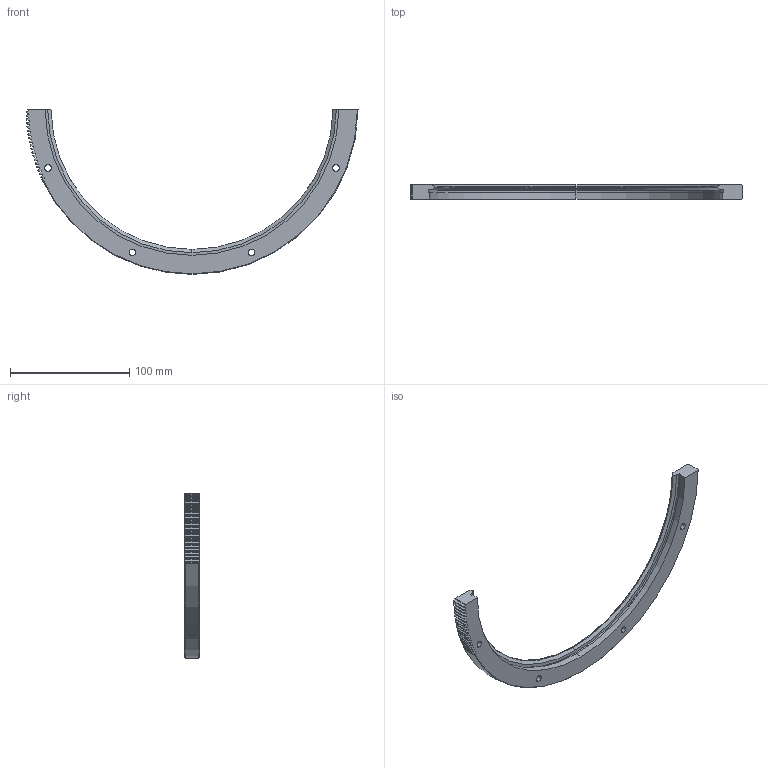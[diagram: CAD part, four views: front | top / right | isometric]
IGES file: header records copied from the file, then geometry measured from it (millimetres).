
Start section: 3D InterOp IGES (v. 2020 1.0.1), Spatial Corp. Copyright (c) 1999-2017.
Global section: file name: ris_278_r180_p.igs; native system: Spatial Corp.; preprocessor: 3D InterOp ACIS/IGES; author: TraceParts; organization: TraceParts S.A.; date: 20220624.060620; units: millimetre
Bounding box: 277.97 x 12.25 x 138 mm (x, y, z)
Surface area: 27985.3 mm2 (no closed solid volume)
Topology: 0 solids, 0 shells, 180 faces, 1034 edges, 1034 vertices
Faces by surface type: extrusion 108, revolution 72
